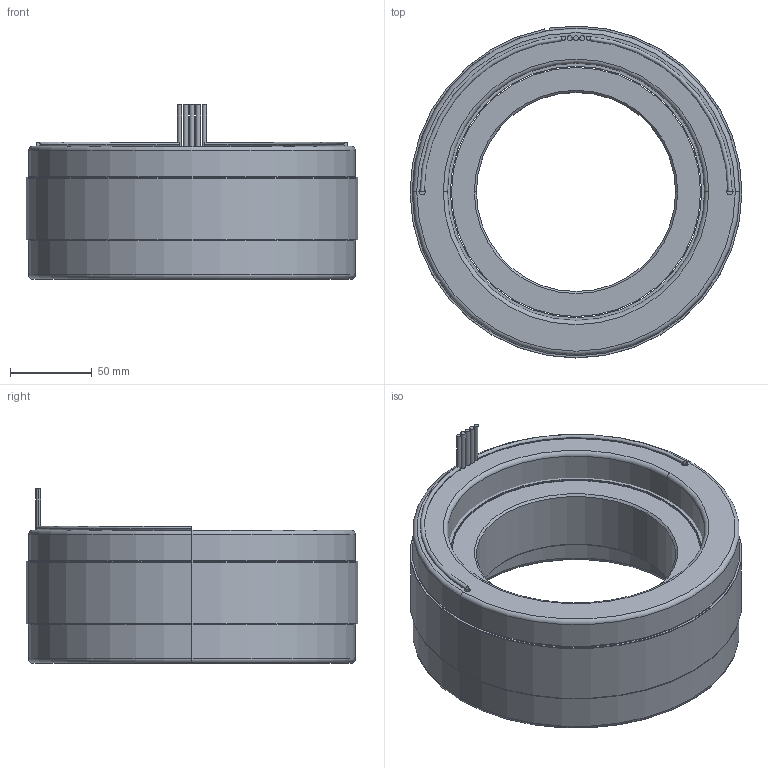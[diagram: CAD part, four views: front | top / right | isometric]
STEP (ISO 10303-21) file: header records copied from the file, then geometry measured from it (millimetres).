
FILE_DESCRIPTION (( 'STEP AP214' ), '1' );
FILE_NAME ('6100337-01.STEP', '2019-10-23T23:05:42', ( '' ), ( '' ), 'SwSTEP 2.0', 'SolidWorks 2016', '' );
FILE_SCHEMA (( 'AUTOMOTIVE_DESIGN' ));
Length unit declared in the file: millimetre
Products named in the file (11): 4150167-XX_4150167-01; 4600545-00; 4500540-XX_4500540-01; 4450180-XX_4450180-01; COMP4500540-XX(COIL)_COMP4500540-01(COIL); 4250361-XX_4250361-01; 6100337-01; 4400090-00
Assembly tree (10 placements, depth 4):
  6100337-01
    4250361-XX_4250361-01
      4150167-XX_4150167-01
    4500540-XX_4500540-01
      4450180-XX_4450180-01
        4450180-XX_4450180-01
        4400090-00
        4400090-00
        4600545-00
        4600545-00
      COMP4500540-XX(COIL)_COMP4500540-01(COIL)
Bounding box: 203.2 x 203.19 x 106.68 mm (x, y, z)
Volume: 1762287.4 mm3; surface area: 340920.1 mm2
Topology: 14 solids, 14 shells, 105 faces, 213 edges, 138 vertices
Faces by surface type: cylinder 59, plane 30, torus 12, cone 4
Entity records: 3320 total; most frequent: DIRECTION 605, CARTESIAN_POINT 472, ORIENTED_EDGE 426, AXIS2_PLACEMENT_3D 271, EDGE_CURVE 213, CIRCLE 150, VERTEX_POINT 138, EDGE_LOOP 121
